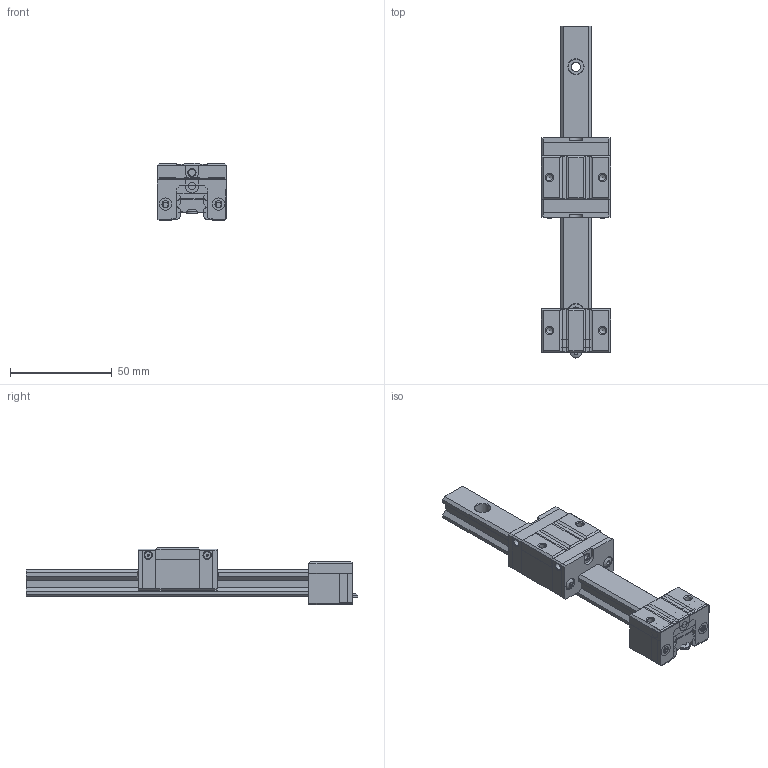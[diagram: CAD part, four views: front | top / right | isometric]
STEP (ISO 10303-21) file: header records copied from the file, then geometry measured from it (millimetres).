
FILE_DESCRIPTION( ( 'Unknown' ), '1' );
FILE_NAME( '//Sbc-server/偃檣滌 DATA/SBI C 蘋棻煎斜 (2010.06.01)/STP/SBI 15 SV.stp', 'Unknown', ( 'Unknown' ), ( 'Unknown' ), 'PSStep 10.0', 'Unknown', ' ' );
FILE_SCHEMA( ( 'AUTOMOTIVE_DESIGN { 1 0 10303 214 1 1 1 1 }' ) );
Length unit declared in the file: millimetre
Products named in the file (6): Assem1; RAIL; SV BLOCK; EP; ES; M3(5.5-2)
Bounding box: 34.05 x 162.75 x 28 mm (x, y, z)
Volume: 85845 mm3; surface area: 39159.7 mm2
Topology: 15 solids, 15 shells, 462 faces, 1209 edges, 803 vertices
Faces by surface type: plane 325, cylinder 102, cone 20, torus 10, bspline 5
Full cylindrical faces by diameter (mm): 1 x6, 2.459 x8, 3.242 x8, 3.4 x6, 3.5 x15, 4 x3, 4.5 x6, 5.5 x5, 6 x6, 7.5 x6
Entity records: 6832 total; most frequent: CARTESIAN_POINT 1005, DIRECTION 868, ORIENTED_EDGE 836, EDGE_CURVE 418, LINE 310, VECTOR 310, VERTEX_POINT 300, AXIS2_PLACEMENT_3D 279
